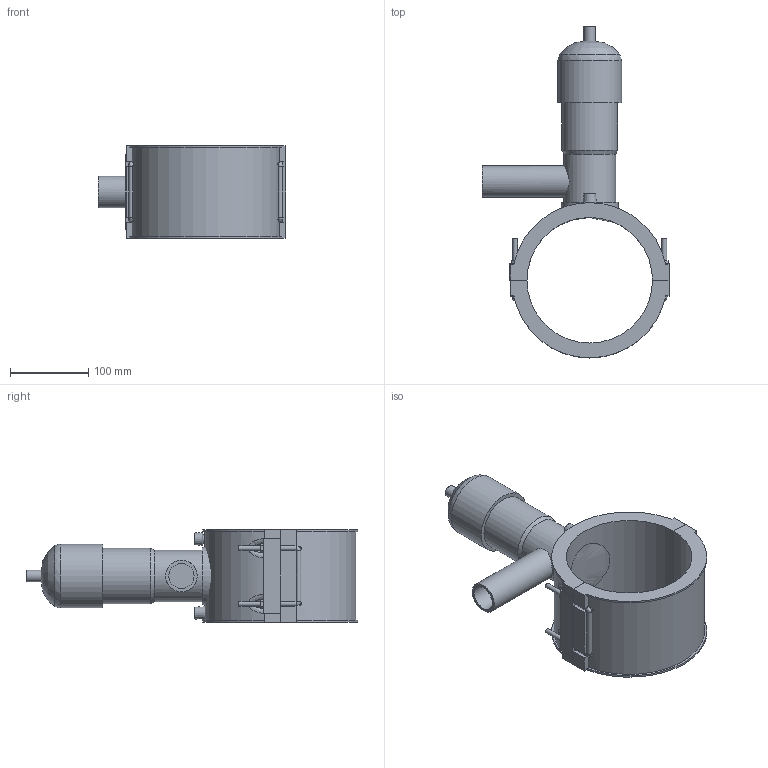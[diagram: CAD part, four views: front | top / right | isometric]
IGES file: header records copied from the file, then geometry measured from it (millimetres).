
Global section: file name: 495404160040.ipt; native system: Autodesk Inventor 2015; preprocessor: unknown; author: KIM; date: 20171106.094259; units: millimetre
Bounding box: 239 x 422.88 x 118 mm (x, y, z)
Volume: 2064143.6 mm3; surface area: 265616.9 mm2
Topology: 3 solids, 5 shells, 157 faces, 388 edges, 246 vertices
Faces by surface type: plane 93, cylinder 29, revolution 16, bspline 12, cone 7
Full cylindrical faces by diameter (mm): 4 x2, 6 x8, 14.64 x1, 40 x1, 65.88 x1, 70.76 x1, 73.2 x1, 81.333 x1
